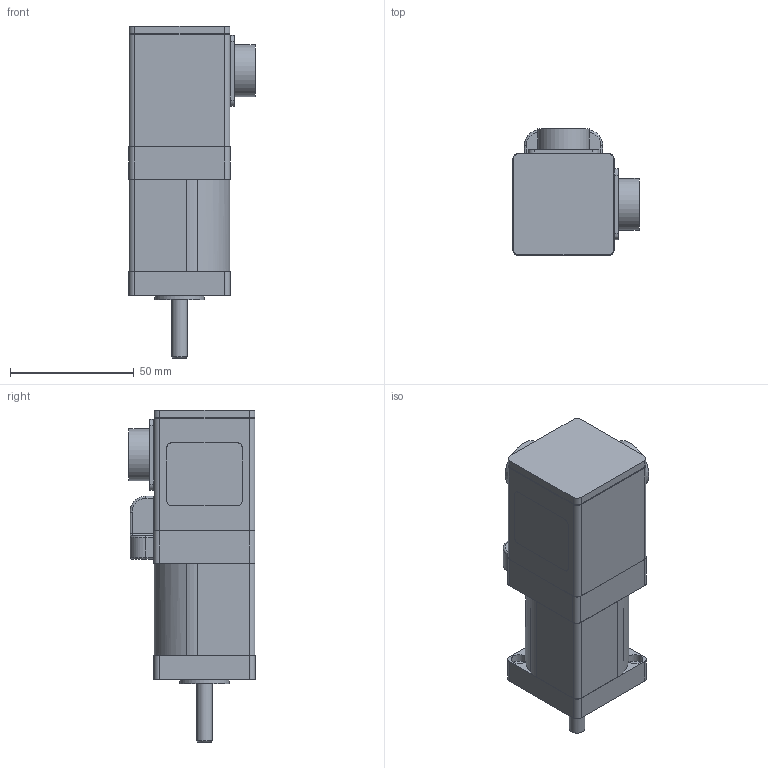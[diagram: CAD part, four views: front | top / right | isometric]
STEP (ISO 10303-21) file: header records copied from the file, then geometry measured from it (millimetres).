
FILE_DESCRIPTION((''),'2;1');
FILE_NAME('C:\CAD_work\Dummy_Modeling_Project_02-12-05\3D MODELS\BE163_MS_TQ.stp','2005-12-20T15:29:27',('jevans'),(''),'Autodesk Inventor 10','Autodesk Inventor 10','');
FILE_SCHEMA(('AUTOMOTIVE_DESIGN { 1 0 10303 214 1 1 1 1 }'));
Length unit declared in the file: inch
Products named in the file (1): BE16_MS_TQ
Bounding box: 50.98 x 50.98 x 133.93 mm (x, y, z)
Volume: 184871.2 mm3; surface area: 27817.6 mm2
Topology: 1 solids, 1 shells, 257 faces, 602 edges, 372 vertices
Faces by surface type: cylinder 119, plane 106, sphere 12, torus 9, bspline 9, cone 2
Full cylindrical faces by diameter (mm): 1.7 x2, 1.905 x26, 2.54 x4, 6.35 x1, 8.992 x1, 11.176 x1, 15.697 x1, 17 x1, 17.018 x2, 17.653 x1, 18.009 x1, 20.015 x1, 20.904 x2
Entity records: 6943 total; most frequent: DIRECTION 1270, CARTESIAN_POINT 1248, ORIENTED_EDGE 1020, AXIS2_PLACEMENT_3D 511, EDGE_CURVE 510, EDGE_LOOP 366, VERTEX_POINT 356, CIRCLE 262
